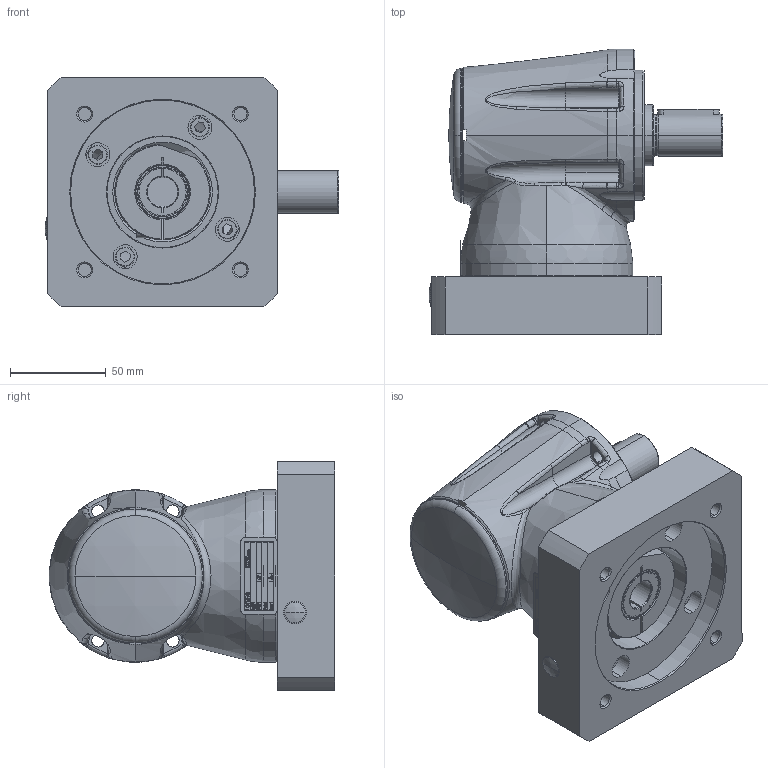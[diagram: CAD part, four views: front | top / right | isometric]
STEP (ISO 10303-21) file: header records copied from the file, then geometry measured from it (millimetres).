
FILE_DESCRIPTION (( 'STEP AP214' ), '1' );
FILE_NAME ('SL-020-001-FFF-MMM-S-LL-XXX-BXX-0000.STEP', '2019-10-30T16:15:12', ( '' ), ( '' ), 'SwSTEP 2.0', 'SolidWorks 2019', '' );
FILE_SCHEMA (( 'AUTOMOTIVE_DESIGN' ));
Length unit declared in the file: millimetre
Products named in the file (1): SL-020-001-FFF-MMM-S-LL-XXX-BXX-0000
Bounding box: 153.27 x 148.94 x 120 mm (x, y, z)
Surface area: 118132.5 mm2 (no closed solid volume)
Topology: 0 solids, 68 shells, 538 faces, 2709 edges, 2209 vertices
Faces by surface type: plane 138, cylinder 114, torus 81, cone 73, bspline 68, sphere 64
Entity records: 47179 total; most frequent: CARTESIAN_POINT 22056, ORIENTED_EDGE 3806, DIRECTION 3203, EDGE_CURVE 2709, VERTEX_POINT 2209, AXIS2_PLACEMENT_3D 1108, B_SPLINE_CURVE_WITH_KNOTS 1058, VECTOR 987
